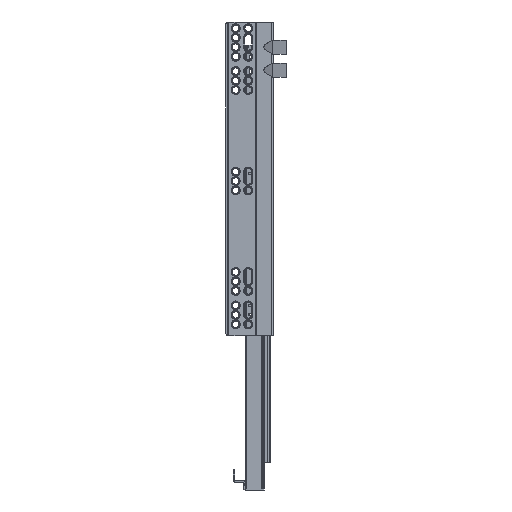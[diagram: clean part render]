
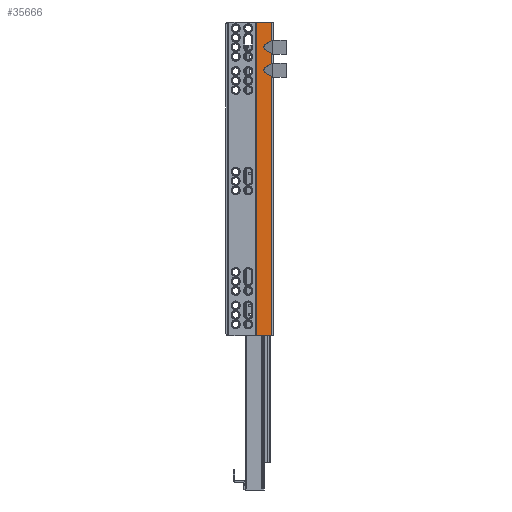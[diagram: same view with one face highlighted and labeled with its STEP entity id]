
A CAD part, left-side view. The second image highlights one B-rep face of the part: STEP entity #35666.
In plain terms, the highlighted planar face has unit normal (-1, 0, 0) as drawn and (1, 0, 0) by its records, which use the part's own axes.
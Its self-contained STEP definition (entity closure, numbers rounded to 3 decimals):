
#608 = LINE ( 'NONE', #32108, #897 ) ;
#873 =( BOUNDED_CURVE ( )  B_SPLINE_CURVE ( 3, ( #26435, #19245, #43624, #53519 ),
 .UNSPECIFIED., .F., .F. ) 
 B_SPLINE_CURVE_WITH_KNOTS ( ( 4, 4 ),
 ( 5.201, 6.283 ),
 .UNSPECIFIED. ) 
 CURVE ( )  GEOMETRIC_REPRESENTATION_ITEM ( )  RATIONAL_B_SPLINE_CURVE ( ( 1., 0.905, 0.905, 1. ) ) 
 REPRESENTATION_ITEM ( '' )  );
#897 = VECTOR ( 'NONE', #7768, 1000. ) ;
#1164 = LINE ( 'NONE', #25478, #45272 ) ;
#1399 = EDGE_CURVE ( 'NONE', #7526, #27009, #29245, .T. ) ;
#2367 = CARTESIAN_POINT ( 'NONE',  ( 35.7, -4.713, 49.383 ) ) ;
#3271 = ORIENTED_EDGE ( 'NONE', *, *, #38643, .F. ) ;
#3346 = CARTESIAN_POINT ( 'NONE',  ( 35.7, 4.559, 541. ) ) ;
#3883 = CARTESIAN_POINT ( 'NONE',  ( 35.7, -9.268, 29.564 ) ) ;
#4504 = EDGE_CURVE ( 'NONE', #27498, #27668, #26031, .T. ) ;
#4528 = DIRECTION ( 'NONE',  ( 0., 0., -1. ) ) ;
#4686 = DIRECTION ( 'NONE',  ( 0., -0.902, 0.432 ) ) ;
#4841 = VERTEX_POINT ( 'NONE', #44276 ) ;
#4941 = CARTESIAN_POINT ( 'NONE',  ( 35.7, 4.6, 0. ) ) ;
#5089 = CARTESIAN_POINT ( 'NONE',  ( 35.7, 4.559, 0. ) ) ;
#5244 =( BOUNDED_CURVE ( )  B_SPLINE_CURVE ( 3, ( #30964, #6621, #38213, #13801 ),
 .UNSPECIFIED., .F., .F. ) 
 B_SPLINE_CURVE_WITH_KNOTS ( ( 4, 4 ),
 ( 0., 1.082 ),
 .UNSPECIFIED. ) 
 CURVE ( )  GEOMETRIC_REPRESENTATION_ITEM ( )  RATIONAL_B_SPLINE_CURVE ( ( 1., 0.905, 0.905, 1. ) ) 
 REPRESENTATION_ITEM ( '' )  );
#5318 = CARTESIAN_POINT ( 'NONE',  ( 35.7, 4.6, 541. ) ) ;
#5879 = EDGE_CURVE ( 'NONE', #46616, #7377, #42955, .T. ) ;
#6111 = CARTESIAN_POINT ( 'NONE',  ( 35.7, -9.9, 18.134 ) ) ;
#6413 = VERTEX_POINT ( 'NONE', #27753 ) ;
#6621 = CARTESIAN_POINT ( 'NONE',  ( 35.7, -3.671, 25.822 ) ) ;
#7039 = ORIENTED_EDGE ( 'NONE', *, *, #52606, .F. ) ;
#7216 = VECTOR ( 'NONE', #4686, 1000. ) ;
#7377 = VERTEX_POINT ( 'NONE', #44463 ) ;
#7526 = VERTEX_POINT ( 'NONE', #44509 ) ;
#7768 = DIRECTION ( 'NONE',  ( 0., 0., -1. ) ) ;
#8829 = ORIENTED_EDGE ( 'NONE', *, *, #1399, .T. ) ;
#9700 = VERTEX_POINT ( 'NONE', #21266 ) ;
#10713 = VECTOR ( 'NONE', #4528, 1000. ) ;
#11019 = EDGE_CURVE ( 'NONE', #27498, #4841, #53194, .T. ) ;
#11362 = CARTESIAN_POINT ( 'NONE',  ( 35.7, 4.6, 300. ) ) ;
#12001 = CARTESIAN_POINT ( 'NONE',  ( 35.7, 4.559, 300. ) ) ;
#12227 = ORIENTED_EDGE ( 'NONE', *, *, #11019, .T. ) ;
#12299 = EDGE_CURVE ( 'NONE', #46616, #27009, #34884, .T. ) ;
#13386 = DIRECTION ( 'NONE',  ( 0., 1., 0. ) ) ;
#13424 = ORIENTED_EDGE ( 'NONE', *, *, #38157, .F. ) ;
#13466 = ORIENTED_EDGE ( 'NONE', *, *, #12299, .F. ) ;
#13801 = CARTESIAN_POINT ( 'NONE',  ( 35.7, -6.499, 28.238 ) ) ;
#14315 = ORIENTED_EDGE ( 'NONE', *, *, #35760, .F. ) ;
#15073 = AXIS2_PLACEMENT_3D ( 'NONE', #5318, #45024, #13386 ) ;
#15376 = EDGE_CURVE ( 'NONE', #43984, #4841, #28173, .T. ) ;
#15993 = EDGE_CURVE ( 'NONE', #27594, #9700, #53371, .T. ) ;
#16668 = CARTESIAN_POINT ( 'NONE',  ( 35.7, -3.671, 46. ) ) ;
#16779 = EDGE_CURVE ( 'NONE', #6413, #43984, #5244, .T. ) ;
#16836 = CARTESIAN_POINT ( 'NONE',  ( 35.7, -6.499, 41.762 ) ) ;
#17284 = CARTESIAN_POINT ( 'NONE',  ( 35.7, -9.9, 541. ) ) ;
#18252 = VECTOR ( 'NONE', #48930, 1000. ) ;
#18830 = CARTESIAN_POINT ( 'NONE',  ( 35.7, -5.936, 42.031 ) ) ;
#18979 = VECTOR ( 'NONE', #43190, 1000. ) ;
#19245 = CARTESIAN_POINT ( 'NONE',  ( 35.7, -4.713, 42.617 ) ) ;
#21266 = CARTESIAN_POINT ( 'NONE',  ( 35.7, -9.9, 51.866 ) ) ;
#21541 = ORIENTED_EDGE ( 'NONE', *, *, #33554, .T. ) ;
#22433 = VERTEX_POINT ( 'NONE', #6111 ) ;
#22491 = VECTOR ( 'NONE', #27643, 1000. ) ;
#25478 = CARTESIAN_POINT ( 'NONE',  ( 35.7, -5.936, 20.031 ) ) ;
#26031 = LINE ( 'NONE', #18830, #18979 ) ;
#26435 = CARTESIAN_POINT ( 'NONE',  ( 35.7, -6.499, 41.762 ) ) ;
#27009 = VERTEX_POINT ( 'NONE', #5089 ) ;
#27234 = ORIENTED_EDGE ( 'NONE', *, *, #4504, .F. ) ;
#27498 = VERTEX_POINT ( 'NONE', #34043 ) ;
#27594 = VERTEX_POINT ( 'NONE', #30581 ) ;
#27643 = DIRECTION ( 'NONE',  ( 0., 0., -1. ) ) ;
#27668 = VERTEX_POINT ( 'NONE', #16836 ) ;
#27753 = CARTESIAN_POINT ( 'NONE',  ( 35.7, -3.671, 24. ) ) ;
#28173 = LINE ( 'NONE', #3883, #52150 ) ;
#28839 = CARTESIAN_POINT ( 'NONE',  ( 35.7, -9.9, 541. ) ) ;
#29000 = CARTESIAN_POINT ( 'NONE',  ( 35.7, -9.268, 51.564 ) ) ;
#29245 = LINE ( 'NONE', #4941, #39597 ) ;
#30420 = EDGE_LOOP ( 'NONE', ( #54519, #21541, #42569, #3271, #13424, #27234, #12227, #51375, #36291, #7039, #14315, #45352, #8829, #13466 ) ) ;
#30581 = CARTESIAN_POINT ( 'NONE',  ( 35.7, -6.499, 50.238 ) ) ;
#30791 = EDGE_CURVE ( 'NONE', #22433, #7526, #41648, .T. ) ;
#30964 = CARTESIAN_POINT ( 'NONE',  ( 35.7, -3.671, 24. ) ) ;
#31089 = CARTESIAN_POINT ( 'NONE',  ( 35.7, -6.499, 19.762 ) ) ;
#32108 = CARTESIAN_POINT ( 'NONE',  ( 35.7, -9.9, 541. ) ) ;
#32807 =( BOUNDED_CURVE ( )  B_SPLINE_CURVE ( 3, ( #43213, #42412, #35951, #47698 ),
 .UNSPECIFIED., .F., .F. ) 
 B_SPLINE_CURVE_WITH_KNOTS ( ( 4, 4 ),
 ( 5.201, 6.283 ),
 .UNSPECIFIED. ) 
 CURVE ( )  GEOMETRIC_REPRESENTATION_ITEM ( )  RATIONAL_B_SPLINE_CURVE ( ( 1., 0.905, 0.905, 1. ) ) 
 REPRESENTATION_ITEM ( '' )  );
#33395 = VERTEX_POINT ( 'NONE', #16668 ) ;
#33554 = EDGE_CURVE ( 'NONE', #7377, #9700, #608, .T. ) ;
#33871 = CARTESIAN_POINT ( 'NONE',  ( 35.7, -3.671, 47.822 ) ) ;
#34043 = CARTESIAN_POINT ( 'NONE',  ( 35.7, -9.9, 40.134 ) ) ;
#34884 = LINE ( 'NONE', #3346, #22491 ) ;
#35404 = DIRECTION ( 'NONE',  ( 0., -0.902, 0.432 ) ) ;
#35666 = ADVANCED_FACE ( 'NONE', ( #41389 ), #36878, .T. ) ;
#35737 = DIRECTION ( 'NONE',  ( 0., -1., 0. ) ) ;
#35760 = EDGE_CURVE ( 'NONE', #22433, #37892, #1164, .T. ) ;
#35951 = CARTESIAN_POINT ( 'NONE',  ( 35.7, -3.671, 22.178 ) ) ;
#36291 = ORIENTED_EDGE ( 'NONE', *, *, #16779, .F. ) ;
#36475 = DIRECTION ( 'NONE',  ( 0., 1., 0. ) ) ;
#36878 = PLANE ( 'NONE',  #15073 ) ;
#37892 = VERTEX_POINT ( 'NONE', #31089 ) ;
#38157 = EDGE_CURVE ( 'NONE', #27668, #33395, #873, .T. ) ;
#38213 = CARTESIAN_POINT ( 'NONE',  ( 35.7, -4.713, 27.383 ) ) ;
#38643 = EDGE_CURVE ( 'NONE', #33395, #27594, #39184, .T. ) ;
#39184 =( BOUNDED_CURVE ( )  B_SPLINE_CURVE ( 3, ( #41085, #33871, #2367, #55597 ),
 .UNSPECIFIED., .F., .F. ) 
 B_SPLINE_CURVE_WITH_KNOTS ( ( 4, 4 ),
 ( 0., 1.082 ),
 .UNSPECIFIED. ) 
 CURVE ( )  GEOMETRIC_REPRESENTATION_ITEM ( )  RATIONAL_B_SPLINE_CURVE ( ( 1., 0.905, 0.905, 1. ) ) 
 REPRESENTATION_ITEM ( '' )  );
#39597 = VECTOR ( 'NONE', #36475, 1000. ) ;
#39749 = VECTOR ( 'NONE', #35737, 1000. ) ;
#41085 = CARTESIAN_POINT ( 'NONE',  ( 35.7, -3.671, 46. ) ) ;
#41389 = FACE_OUTER_BOUND ( 'NONE', #30420, .T. ) ;
#41648 = LINE ( 'NONE', #17284, #18252 ) ;
#42412 = CARTESIAN_POINT ( 'NONE',  ( 35.7, -4.713, 20.617 ) ) ;
#42569 = ORIENTED_EDGE ( 'NONE', *, *, #15993, .F. ) ;
#42955 = LINE ( 'NONE', #11362, #39749 ) ;
#43190 = DIRECTION ( 'NONE',  ( 0., 0.902, 0.432 ) ) ;
#43213 = CARTESIAN_POINT ( 'NONE',  ( 35.7, -6.499, 19.762 ) ) ;
#43624 = CARTESIAN_POINT ( 'NONE',  ( 35.7, -3.671, 44.178 ) ) ;
#43984 = VERTEX_POINT ( 'NONE', #48167 ) ;
#44276 = CARTESIAN_POINT ( 'NONE',  ( 35.7, -9.9, 29.866 ) ) ;
#44463 = CARTESIAN_POINT ( 'NONE',  ( 35.7, -9.9, 300. ) ) ;
#44509 = CARTESIAN_POINT ( 'NONE',  ( 35.7, -9.9, 0. ) ) ;
#45024 = DIRECTION ( 'NONE',  ( 1., 0., 0. ) ) ;
#45272 = VECTOR ( 'NONE', #49858, 1000. ) ;
#45352 = ORIENTED_EDGE ( 'NONE', *, *, #30791, .T. ) ;
#46616 = VERTEX_POINT ( 'NONE', #12001 ) ;
#47698 = CARTESIAN_POINT ( 'NONE',  ( 35.7, -3.671, 24. ) ) ;
#48167 = CARTESIAN_POINT ( 'NONE',  ( 35.7, -6.499, 28.238 ) ) ;
#48930 = DIRECTION ( 'NONE',  ( 0., 0., -1. ) ) ;
#49858 = DIRECTION ( 'NONE',  ( 0., 0.902, 0.432 ) ) ;
#51375 = ORIENTED_EDGE ( 'NONE', *, *, #15376, .F. ) ;
#52150 = VECTOR ( 'NONE', #35404, 1000. ) ;
#52606 = EDGE_CURVE ( 'NONE', #37892, #6413, #32807, .T. ) ;
#53194 = LINE ( 'NONE', #28839, #10713 ) ;
#53371 = LINE ( 'NONE', #29000, #7216 ) ;
#53519 = CARTESIAN_POINT ( 'NONE',  ( 35.7, -3.671, 46. ) ) ;
#54519 = ORIENTED_EDGE ( 'NONE', *, *, #5879, .T. ) ;
#55597 = CARTESIAN_POINT ( 'NONE',  ( 35.7, -6.499, 50.238 ) ) ;
